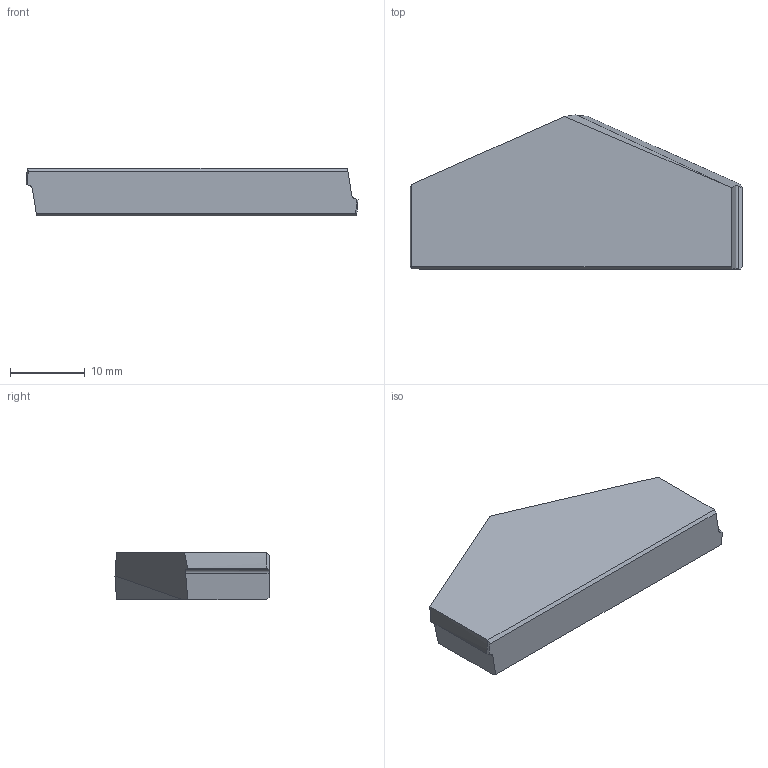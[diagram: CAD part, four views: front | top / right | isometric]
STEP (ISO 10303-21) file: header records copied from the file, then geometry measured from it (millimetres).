
FILE_DESCRIPTION (( 'STEP AP214' ), '1' );
FILE_NAME ('02-1065.STEP', '2022-06-24T05:58:08', ( '' ), ( '' ), 'SwSTEP 2.0', 'SolidWorks 2018', '' );
FILE_SCHEMA (( 'AUTOMOTIVE_DESIGN' ));
Length unit declared in the file: millimetre
Products named in the file (1): 02-1065
Bounding box: 44.4 x 20.6 x 6.4 mm (x, y, z)
Volume: 4331.8 mm3; surface area: 2060.3 mm2
Topology: 1 solids, 1 shells, 19 faces, 50 edges, 33 vertices
Faces by surface type: plane 13, cylinder 4, cone 2
Entity records: 620 total; most frequent: CARTESIAN_POINT 133, ORIENTED_EDGE 100, DIRECTION 86, EDGE_CURVE 50, VECTOR 34, LINE 34, VERTEX_POINT 33, AXIS2_PLACEMENT_3D 26
